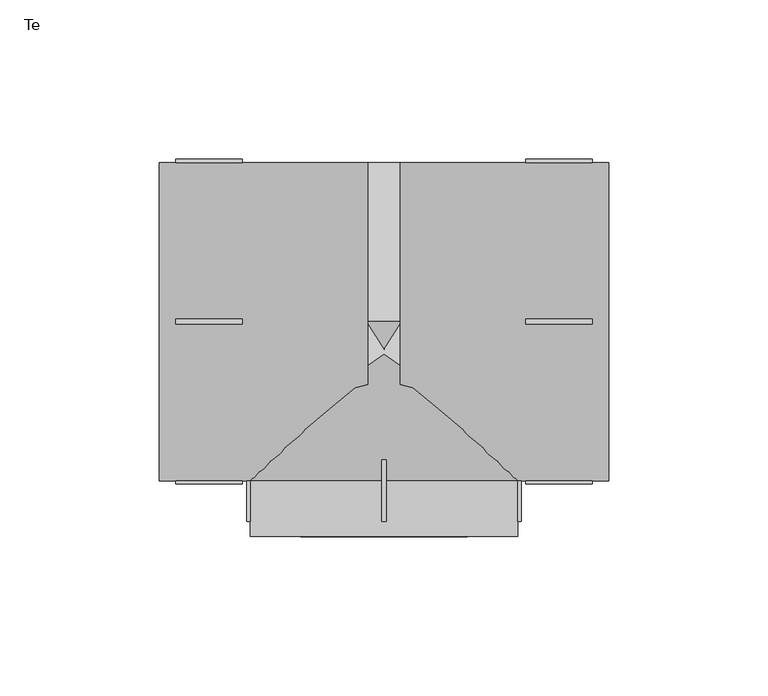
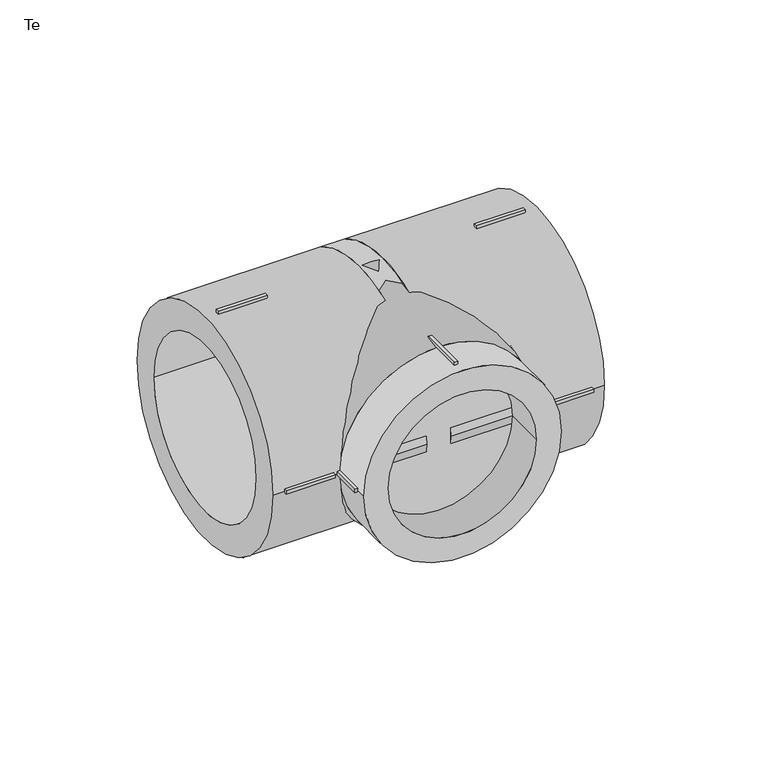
"""IFC4 building model written with IfcOpenShell, lengths in millimetres: pipe fitting geometry, EGB_VASEN_ PPR_Te WXR300_Te reducida WXR310 : Te."""

from ifc_helpers import new_model, si_unit, point, frame, origin, origin_2d, place, context, project, spatial, polyline, circle_curve, trimmed, segment, composite_curve, outline, extrude, source, transform, mapped, element, save
from ifc_brep_helpers import plane_surface, revolved_surface, advanced_brep


def te_b0e59ee9(model_context):
    return source(origin(), model_context, "Body", "SolidModel", [
        extrude(outline(polyline([(-0.75, -43.5), (0.75, -43.5), (0.75, -62.7), (-0.75, -62.7), (-0.75, -43.5)])), frame((0.0, 0.0, 41.0), z_axis=(0.0, 0.0, 1.0), x_axis=(1.0, 0.0, 0.0)), (0.0, 0.0, 1.0), 2.0),
        extrude(outline(polyline([(-0.75, -43.5), (0.75, -43.5), (0.75, -62.7), (-0.75, -62.7), (-0.75, -43.5)])), frame((0.0, 0.0, -43.0), z_axis=(0.0, 0.0, 1.0), x_axis=(1.0, 0.0, 0.0)), (0.0, 0.0, 1.0), 2.0),
        extrude(outline(polyline([(41.0, -43.5), (43.0, -43.5), (43.0, -62.7), (41.0, -62.7), (41.0, -43.5)])), frame((0.0, 0.0, -0.75), z_axis=(0.0, 0.0, 1.0), x_axis=(1.0, 0.0, 0.0)), (0.0, 0.0, 1.0), 1.5),
        extrude(outline(polyline([(-43.0, -43.5), (-41.0, -43.5), (-41.0, -62.7), (-43.0, -62.7), (-43.0, -43.5)])), frame((0.0, 0.0, -0.75), z_axis=(0.0, 0.0, 1.0), x_axis=(1.0, 0.0, 0.0)), (0.0, 0.0, 1.0), 1.5),
        extrude(outline(polyline([(44.5, -0.75), (44.5, 0.75), (65.3, 0.75), (65.3, -0.75), (44.5, -0.75)])), frame((0.0, 0.0, 49.0), z_axis=(0.0, 0.0, 1.0), x_axis=(1.0, 0.0, 0.0)), (0.0, 0.0, 1.0), 2.0),
        extrude(outline(polyline([(44.5, -0.75), (44.5, 0.75), (65.3, 0.75), (65.3, -0.75), (44.5, -0.75)])), frame((0.0, 0.0, -51.0), z_axis=(0.0, 0.0, 1.0), x_axis=(1.0, 0.0, 0.0)), (0.0, 0.0, 1.0), 2.0),
        extrude(outline(polyline([(44.5, 49.0), (44.5, 51.0), (65.3, 51.0), (65.3, 49.0), (44.5, 49.0)])), frame((0.0, 0.0, -0.75), z_axis=(0.0, 0.0, 1.0), x_axis=(1.0, 0.0, 0.0)), (0.0, 0.0, 1.0), 1.5),
        extrude(outline(polyline([(44.5, -51.0), (44.5, -49.0), (65.3, -49.0), (65.3, -51.0), (44.5, -51.0)])), frame((0.0, 0.0, -0.75), z_axis=(0.0, 0.0, 1.0), x_axis=(1.0, 0.0, 0.0)), (0.0, 0.0, 1.0), 1.5),
        extrude(outline(polyline([(-44.5, 0.75), (-44.5, -0.75), (-65.3, -0.75), (-65.3, 0.75), (-44.5, 0.75)])), frame((0.0, 0.0, 49.0), z_axis=(0.0, 0.0, 1.0), x_axis=(1.0, 0.0, 0.0)), (0.0, 0.0, 1.0), 2.0),
        extrude(outline(polyline([(-44.5, 0.75), (-44.5, -0.75), (-65.3, -0.75), (-65.3, 0.75), (-44.5, 0.75)])), frame((0.0, 0.0, -51.0), z_axis=(0.0, 0.0, 1.0), x_axis=(1.0, 0.0, 0.0)), (0.0, 0.0, 1.0), 2.0),
        extrude(outline(polyline([(-44.5, 51.0), (-44.5, 49.0), (-65.3, 49.0), (-65.3, 51.0), (-44.5, 51.0)])), frame((0.0, 0.0, -0.75), z_axis=(0.0, 0.0, 1.0), x_axis=(1.0, 0.0, 0.0)), (0.0, 0.0, 1.0), 1.5),
        extrude(outline(polyline([(-44.5, -49.0), (-44.5, -51.0), (-65.3, -51.0), (-65.3, -49.0), (-44.5, -49.0)])), frame((0.0, 0.0, -0.75), z_axis=(0.0, 0.0, 1.0), x_axis=(1.0, 0.0, 0.0)), (0.0, 0.0, 1.0), 1.5),
        extrude(outline(composite_curve([segment(trimmed(circle_curve(origin_2d(), 42.0), [point((0.0, 42.0))], [point((0.0, -42.0))], False, "CARTESIAN"), True, "CONTINUOUS"), segment(trimmed(circle_curve(origin_2d(), 42.0), [point((0.0, -42.0))], [point((0.0, 42.0))], False, "CARTESIAN"), True, "CONTINUOUS")], self_intersect=False), holes=[composite_curve([segment(trimmed(circle_curve(origin_2d(), 31.5), [point((0.0, 31.5))], [point((0.0, -31.5))], True, "CARTESIAN"), True, "CONTINUOUS"), segment(trimmed(circle_curve(origin_2d(), 31.5), [point((0.0, -31.5))], [point((0.0, 31.5))], True, "CARTESIAN"), True, "CONTINUOUS")], self_intersect=False)]), frame((0.0, -67.5, 0.0), z_axis=(0.0, 1.0, 0.0), x_axis=(0.0, 0.0, 1.0)), (0.0, 0.0, 1.0), 17.5),
        extrude(outline(composite_curve([segment(trimmed(circle_curve(origin_2d(), 50.0), [point((-50.0, 0.0))], [point((50.0, 0.0))], False, "CARTESIAN"), True, "CONTINUOUS"), segment(trimmed(circle_curve(origin_2d(), 50.0), [point((50.0, 0.0))], [point((-50.0, 0.0))], False, "CARTESIAN"), True, "CONTINUOUS")], self_intersect=False), holes=[composite_curve([segment(trimmed(circle_curve(origin_2d(), 37.5), [point((-37.5, 0.0))], [point((37.5, 0.0))], True, "CARTESIAN"), True, "CONTINUOUS"), segment(trimmed(circle_curve(origin_2d(), 37.5), [point((37.5, 0.0))], [point((-37.5, 0.0))], True, "CARTESIAN"), True, "CONTINUOUS")], self_intersect=False)]), frame((5.16, 0.0, 0.0), z_axis=(1.0, 0.0, 0.0), x_axis=(0.0, 1.0, 0.0)), (0.0, 0.0, 1.0), 65.34),
        extrude(outline(composite_curve([segment(trimmed(circle_curve(origin_2d(), 50.0), [point((-50.0, 0.0))], [point((50.0, 0.0))], False, "CARTESIAN"), True, "CONTINUOUS"), segment(trimmed(circle_curve(origin_2d(), 50.0), [point((50.0, 0.0))], [point((-50.0, 0.0))], False, "CARTESIAN"), True, "CONTINUOUS")], self_intersect=False), holes=[composite_curve([segment(trimmed(circle_curve(origin_2d(), 37.5), [point((-37.5, 0.0))], [point((37.5, 0.0))], True, "CARTESIAN"), True, "CONTINUOUS"), segment(trimmed(circle_curve(origin_2d(), 37.5), [point((37.5, 0.0))], [point((-37.5, 0.0))], True, "CARTESIAN"), True, "CONTINUOUS")], self_intersect=False)]), frame((-70.5, 0.0, 0.0), z_axis=(1.0, 0.0, 0.0), x_axis=(0.0, 1.0, 0.0)), (0.0, 0.0, 1.0), 65.34),
        advanced_brep(
        [(50.0, 0.0, 0.0), (-50.0, 0.0, 0.0), (42.0, -50.0, 0.0), (-42.0, -50.0, 0.0)],
        [
            (0, 1, circle_curve(frame((0.0, 0.0, 0.0), z_axis=(0.0, 1.0, 0.0), x_axis=(1.0, 0.0, 0.0)), 50.0)),
            (1, 0, circle_curve(frame((0.0, 0.0, 0.0), z_axis=(0.0, 1.0, 0.0), x_axis=(-1.0, 0.0, 0.0)), 50.0)),
            (2, 3, circle_curve(frame((0.0, -50.0, 0.0), z_axis=(0.0, -1.0, 0.0), x_axis=(-1.0, 0.0, 0.0)), 42.0)),
            (3, 2, circle_curve(frame((0.0, -50.0, 0.0), z_axis=(0.0, -1.0, 0.0), x_axis=(1.0, 0.0, 0.0)), 42.0)),
            (3, 1),
            (0, 2),
        ],
        [
            plane_surface(frame((0.0, 0.0, 0.0), z_axis=(0.0, 1.0, 0.0), x_axis=(0.0, 0.0, -1.0))),
            plane_surface(frame((0.0, -50.0, 0.0), z_axis=(0.0, -1.0, 0.0), x_axis=(0.0, 0.0, -1.0))),
            revolved_surface(polyline([(-42.0, -50.0, 0.0), (-50.0, 0.0, 0.0)]), (0.0, -312.5, 0.0), (0.0, 1.0, 0.0)),
            revolved_surface(polyline([(42.0, -50.0, 0.0), (50.0, 0.0, 0.0)]), (0.0, -312.5, 0.0), (0.0, 1.0, 0.0)),
        ],
        [
            (0, [[1, 2]]),
            (1, [[3, 4]]),
            (2, [[-4, 5, -1, 6]]),
            (3, [[-3, -6, -2, -5]]),
        ],
    ),
        extrude(outline(composite_curve([segment(trimmed(circle_curve(origin_2d(), 50.0), [point((-50.0, 0.0))], [point((50.0, 0.0))], False, "CARTESIAN"), True, "CONTINUOUS"), segment(trimmed(circle_curve(origin_2d(), 50.0), [point((50.0, 0.0))], [point((-50.0, 0.0))], False, "CARTESIAN"), True, "CONTINUOUS")], self_intersect=False)), frame((-5.16, 0.0, 0.0), z_axis=(1.0, 0.0, 0.0), x_axis=(0.0, 1.0, 0.0)), (0.0, 0.0, 1.0), 10.32),
    ])


if __name__ == "__main__":
    model = new_model("IFC4")
    model_context = context("Model", 3, world=origin())
    ifc_project = project(units=[si_unit("LENGTHUNIT", "METRE", prefix="MILLI")], contexts=[model_context])
    site = spatial("IfcSite", under=ifc_project)
    building = spatial("IfcBuilding", under=site)
    placement = place(None, origin())
    te_shape = te_b0e59ee9(model_context)
    element("IfcPipeFitting", 1, ObjectType="EGB_VASEN_ PPR_Te WXR300_Te reducida WXR310 : Te", at=placement, inside=building, context=model_context, shape_type="MappedRepresentation", body=[
        mapped(te_shape, transform((0.0, 0.0, 0.0), x_axis=(1.0, 0.0, 0.0), y_axis=(0.0, 1.0, 0.0), z_axis=(0.0, 0.0, 1.0))),
    ])
    save(model, "model.ifc")
